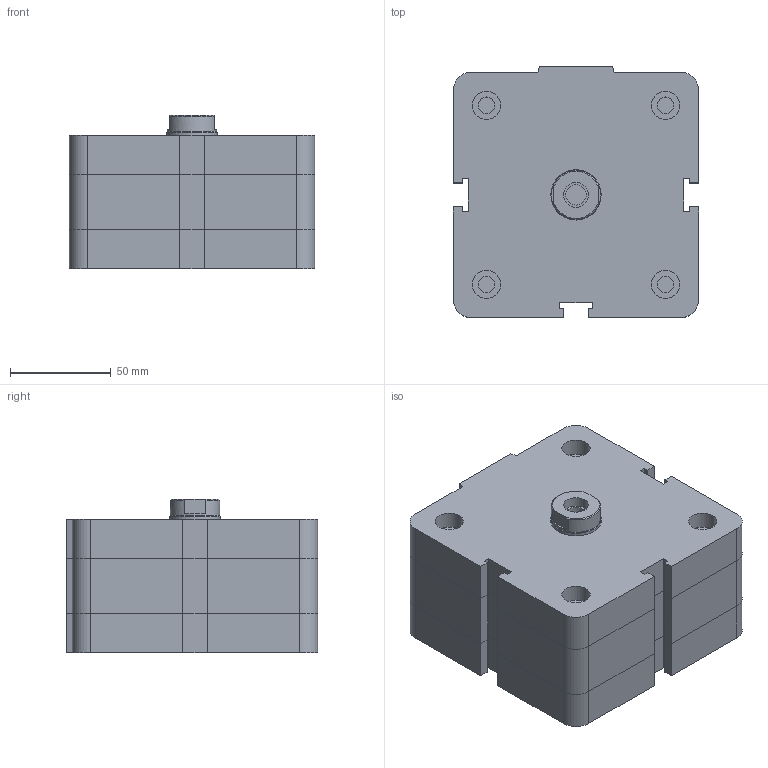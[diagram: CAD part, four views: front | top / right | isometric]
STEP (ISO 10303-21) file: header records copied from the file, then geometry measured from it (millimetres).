
FILE_DESCRIPTION((''),'2;1');
FILE_NAME('I:\Area Tecnica\Disegni\VARIE-3D\Componenti\EUROPE\15##_###_####_01_#\1561_100_0000_01_1.stp','2008-12-19T15:34:33',('rivolro1'),(''),'Autodesk Inventor 2009','Autodesk Inventor 2009','');
FILE_SCHEMA(('AUTOMOTIVE_DESIGN { 1 0 10303 214 1 1 1 1 }'));
Length unit declared in the file: millimetre
Products named in the file (3): 1561_100_0000_01_1; 1561_100_0000_01_1_C; 1561_100_0000_01_1_S
Assembly tree (2 placements, depth 2):
  1561_100_0000_01_1
    1561_100_0000_01_1_C
    1561_100_0000_01_1_S
Bounding box: 122 x 125 x 76.5 mm (x, y, z)
Volume: 955768.1 mm3; surface area: 78097.2 mm2
Topology: 2 solids, 2 shells, 163 faces, 349 edges, 211 vertices
Faces by surface type: plane 112, bspline 26, cylinder 22, cone 3
Full cylindrical faces by diameter (mm): 8.376 x4, 14 x4, 24.5 x1, 25 x1
Entity records: 4455 total; most frequent: CARTESIAN_POINT 952, DIRECTION 662, ORIENTED_EDGE 630, EDGE_CURVE 315, VECTOR 244, LINE 244, AXIS2_PLACEMENT_3D 209, EDGE_LOOP 208
